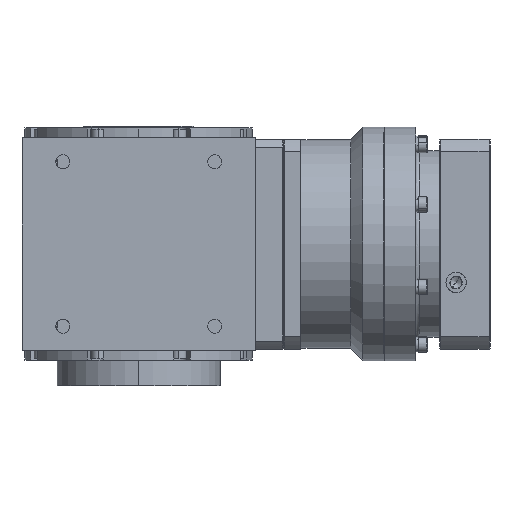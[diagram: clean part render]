
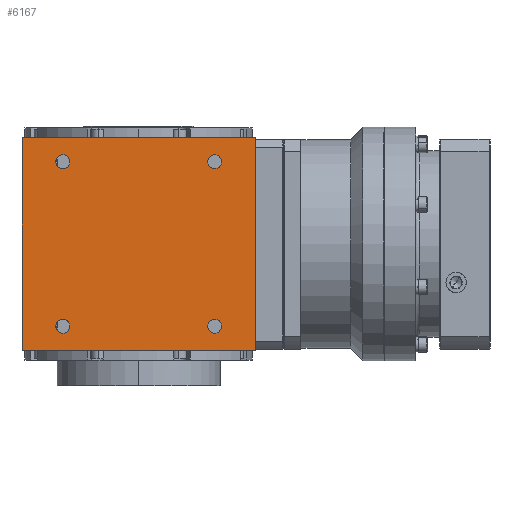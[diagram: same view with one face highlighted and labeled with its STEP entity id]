
A CAD part, left-side view. The second image highlights one B-rep face of the part: STEP entity #6167.
In plain terms, the highlighted planar face has unit normal (-1, 0, 0).
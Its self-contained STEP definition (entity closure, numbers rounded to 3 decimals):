
#210 = CARTESIAN_POINT ( 'NONE',  ( -100., -65.034, 70.5 ) ) ;
#739 = FACE_OUTER_BOUND ( 'NONE', #14656, .T. ) ;
#853 = CARTESIAN_POINT ( 'NONE',  ( -100., 70.966, -70.5 ) ) ;
#1164 = VECTOR ( 'NONE', #10519, 1000. ) ;
#1577 = EDGE_LOOP ( 'NONE', ( #4657, #14913 ) ) ;
#1876 = DIRECTION ( 'NONE',  ( 0., -1., 0. ) ) ;
#1878 = DIRECTION ( 'NONE',  ( 1., 0., 0. ) ) ;
#2005 = EDGE_CURVE ( 'NONE', #32038, #21138, #12173, .T. ) ;
#2244 = ORIENTED_EDGE ( 'NONE', *, *, #11393, .T. ) ;
#2406 = AXIS2_PLACEMENT_3D ( 'NONE', #26777, #1878, #22057 ) ;
#2420 = DIRECTION ( 'NONE',  ( 0., -1., 0. ) ) ;
#2491 = CARTESIAN_POINT ( 'NONE',  ( -100., -65.034, -70.5 ) ) ;
#2597 = EDGE_CURVE ( 'NONE', #32445, #23715, #5864, .T. ) ;
#2701 = DIRECTION ( 'NONE',  ( 0., -1., 0. ) ) ;
#3027 = VERTEX_POINT ( 'NONE', #25066 ) ;
#4421 = DIRECTION ( 'NONE',  ( 0., -1., 0. ) ) ;
#4657 = ORIENTED_EDGE ( 'NONE', *, *, #22866, .T. ) ;
#5084 = CARTESIAN_POINT ( 'NONE',  ( -100., 64.966, -70.5 ) ) ;
#5449 = AXIS2_PLACEMENT_3D ( 'NONE', #19250, #27596, #2701 ) ;
#5616 = CARTESIAN_POINT ( 'NONE',  ( -100., 100., -91. ) ) ;
#5764 = CARTESIAN_POINT ( 'NONE',  ( -100., -71.034, -70.5 ) ) ;
#5787 = EDGE_LOOP ( 'NONE', ( #13216, #23050 ) ) ;
#5864 = CIRCLE ( 'NONE', #10480, 6. ) ;
#6067 = LINE ( 'NONE', #33762, #28737 ) ;
#6167 = ADVANCED_FACE ( 'NONE', ( #11423, #31316, #31497, #25996, #739 ), #8887, .T. ) ;
#6537 = DIRECTION ( 'NONE',  ( -1., 0., 0. ) ) ;
#6682 = VERTEX_POINT ( 'NONE', #35381 ) ;
#6968 = ORIENTED_EDGE ( 'NONE', *, *, #8221, .T. ) ;
#7124 = VECTOR ( 'NONE', #17126, 1000. ) ;
#7388 = CIRCLE ( 'NONE', #13772, 6. ) ;
#7733 = ORIENTED_EDGE ( 'NONE', *, *, #30824, .F. ) ;
#7836 = DIRECTION ( 'NONE',  ( 1., 0., 0. ) ) ;
#8221 = EDGE_CURVE ( 'NONE', #3027, #25044, #15472, .T. ) ;
#8289 = CARTESIAN_POINT ( 'NONE',  ( -100., 58.966, -70.5 ) ) ;
#8805 = CARTESIAN_POINT ( 'NONE',  ( -100., 70.966, 70.5 ) ) ;
#8887 = PLANE ( 'NONE',  #26335 ) ;
#9549 = EDGE_LOOP ( 'NONE', ( #34296, #33589 ) ) ;
#10480 = AXIS2_PLACEMENT_3D ( 'NONE', #28021, #20010, #11799 ) ;
#10519 = DIRECTION ( 'NONE',  ( 0., 0., 1. ) ) ;
#11393 = EDGE_CURVE ( 'NONE', #6682, #28155, #26045, .T. ) ;
#11423 = FACE_BOUND ( 'NONE', #35160, .T. ) ;
#11799 = DIRECTION ( 'NONE',  ( 0., -1., 0. ) ) ;
#11832 = CARTESIAN_POINT ( 'NONE',  ( -100., -100., -91. ) ) ;
#12114 = EDGE_CURVE ( 'NONE', #16096, #17180, #33935, .T. ) ;
#12173 = CIRCLE ( 'NONE', #29719, 6. ) ;
#13101 = DIRECTION ( 'NONE',  ( 0., -1., 0. ) ) ;
#13188 = EDGE_CURVE ( 'NONE', #35031, #6682, #24696, .T. ) ;
#13216 = ORIENTED_EDGE ( 'NONE', *, *, #21049, .T. ) ;
#13375 = DIRECTION ( 'NONE',  ( 1., 0., 0. ) ) ;
#13772 = AXIS2_PLACEMENT_3D ( 'NONE', #26117, #24589, #1876 ) ;
#14243 = AXIS2_PLACEMENT_3D ( 'NONE', #2491, #13375, #30342 ) ;
#14656 = EDGE_LOOP ( 'NONE', ( #2244, #7733, #22614, #29573 ) ) ;
#14913 = ORIENTED_EDGE ( 'NONE', *, *, #12114, .T. ) ;
#14959 = CARTESIAN_POINT ( 'NONE',  ( -100., 100., -91. ) ) ;
#15314 = CARTESIAN_POINT ( 'NONE',  ( -100., -59.034, -70.5 ) ) ;
#15472 = CIRCLE ( 'NONE', #29450, 6. ) ;
#16096 = VERTEX_POINT ( 'NONE', #8805 ) ;
#16895 = CIRCLE ( 'NONE', #2406, 6. ) ;
#17126 = DIRECTION ( 'NONE',  ( 0., 0., 1. ) ) ;
#17180 = VERTEX_POINT ( 'NONE', #33461 ) ;
#17626 = DIRECTION ( 'NONE',  ( 0., 0., 1. ) ) ;
#18324 = CIRCLE ( 'NONE', #22441, 6. ) ;
#18587 = CARTESIAN_POINT ( 'NONE',  ( -100., -100., 91. ) ) ;
#18707 = DIRECTION ( 'NONE',  ( 0., -1., 0. ) ) ;
#19250 = CARTESIAN_POINT ( 'NONE',  ( -100., 64.966, 70.5 ) ) ;
#19277 = VERTEX_POINT ( 'NONE', #29112 ) ;
#20010 = DIRECTION ( 'NONE',  ( 1., 0., 0. ) ) ;
#21049 = EDGE_CURVE ( 'NONE', #23715, #32445, #29976, .T. ) ;
#21138 = VERTEX_POINT ( 'NONE', #8289 ) ;
#21722 = CARTESIAN_POINT ( 'NONE',  ( -100., -59.034, 70.5 ) ) ;
#21860 = DIRECTION ( 'NONE',  ( 1., 0., 0. ) ) ;
#22057 = DIRECTION ( 'NONE',  ( 0., -1., 0. ) ) ;
#22441 = AXIS2_PLACEMENT_3D ( 'NONE', #210, #21860, #2420 ) ;
#22614 = ORIENTED_EDGE ( 'NONE', *, *, #28718, .F. ) ;
#22866 = EDGE_CURVE ( 'NONE', #17180, #16096, #7388, .T. ) ;
#23050 = ORIENTED_EDGE ( 'NONE', *, *, #2597, .T. ) ;
#23715 = VERTEX_POINT ( 'NONE', #5764 ) ;
#24520 = CARTESIAN_POINT ( 'NONE',  ( -100., 100., -91. ) ) ;
#24589 = DIRECTION ( 'NONE',  ( 1., 0., 0. ) ) ;
#24696 = LINE ( 'NONE', #24520, #33690 ) ;
#25044 = VERTEX_POINT ( 'NONE', #21722 ) ;
#25066 = CARTESIAN_POINT ( 'NONE',  ( -100., -71.034, 70.5 ) ) ;
#25251 = DIRECTION ( 'NONE',  ( 0., -1., 0. ) ) ;
#25996 = FACE_BOUND ( 'NONE', #1577, .T. ) ;
#26045 = LINE ( 'NONE', #11832, #7124 ) ;
#26117 = CARTESIAN_POINT ( 'NONE',  ( -100., 64.966, 70.5 ) ) ;
#26335 = AXIS2_PLACEMENT_3D ( 'NONE', #33684, #6537, #17626 ) ;
#26777 = CARTESIAN_POINT ( 'NONE',  ( -100., 64.966, -70.5 ) ) ;
#27309 = CARTESIAN_POINT ( 'NONE',  ( -100., -65.034, 70.5 ) ) ;
#27596 = DIRECTION ( 'NONE',  ( 1., 0., 0. ) ) ;
#27985 = DIRECTION ( 'NONE',  ( 1., 0., 0. ) ) ;
#28021 = CARTESIAN_POINT ( 'NONE',  ( -100., -65.034, -70.5 ) ) ;
#28155 = VERTEX_POINT ( 'NONE', #18587 ) ;
#28718 = EDGE_CURVE ( 'NONE', #35031, #19277, #30566, .T. ) ;
#28737 = VECTOR ( 'NONE', #4421, 1000. ) ;
#29112 = CARTESIAN_POINT ( 'NONE',  ( -100., 100., 91. ) ) ;
#29450 = AXIS2_PLACEMENT_3D ( 'NONE', #27309, #7836, #13101 ) ;
#29573 = ORIENTED_EDGE ( 'NONE', *, *, #13188, .T. ) ;
#29719 = AXIS2_PLACEMENT_3D ( 'NONE', #5084, #27985, #25251 ) ;
#29950 = EDGE_CURVE ( 'NONE', #21138, #32038, #16895, .T. ) ;
#29976 = CIRCLE ( 'NONE', #14243, 6. ) ;
#30342 = DIRECTION ( 'NONE',  ( 0., -1., 0. ) ) ;
#30566 = LINE ( 'NONE', #5616, #1164 ) ;
#30824 = EDGE_CURVE ( 'NONE', #19277, #28155, #6067, .T. ) ;
#31316 = FACE_BOUND ( 'NONE', #9549, .T. ) ;
#31497 = FACE_BOUND ( 'NONE', #5787, .T. ) ;
#32038 = VERTEX_POINT ( 'NONE', #853 ) ;
#32445 = VERTEX_POINT ( 'NONE', #15314 ) ;
#32821 = EDGE_CURVE ( 'NONE', #25044, #3027, #18324, .T. ) ;
#33461 = CARTESIAN_POINT ( 'NONE',  ( -100., 58.966, 70.5 ) ) ;
#33589 = ORIENTED_EDGE ( 'NONE', *, *, #2005, .T. ) ;
#33684 = CARTESIAN_POINT ( 'NONE',  ( -100., 100., -91. ) ) ;
#33690 = VECTOR ( 'NONE', #18707, 1000. ) ;
#33762 = CARTESIAN_POINT ( 'NONE',  ( -100., 0., 91. ) ) ;
#33935 = CIRCLE ( 'NONE', #5449, 6. ) ;
#34296 = ORIENTED_EDGE ( 'NONE', *, *, #29950, .T. ) ;
#35031 = VERTEX_POINT ( 'NONE', #14959 ) ;
#35160 = EDGE_LOOP ( 'NONE', ( #6968, #35196 ) ) ;
#35196 = ORIENTED_EDGE ( 'NONE', *, *, #32821, .T. ) ;
#35381 = CARTESIAN_POINT ( 'NONE',  ( -100., -100., -91. ) ) ;
